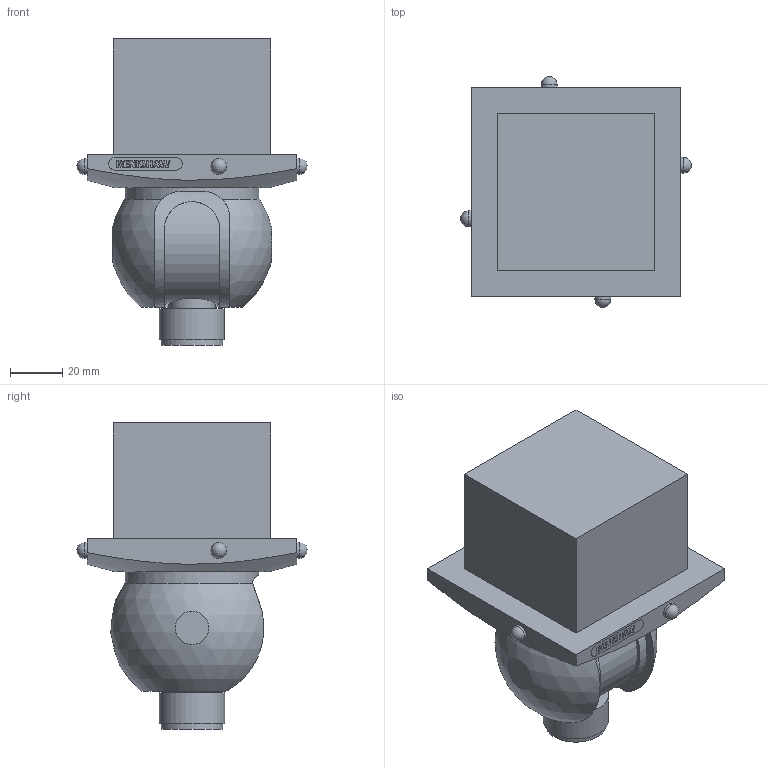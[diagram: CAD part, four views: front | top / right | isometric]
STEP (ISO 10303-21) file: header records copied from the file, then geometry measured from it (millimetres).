
FILE_DESCRIPTION(/* description */ (''),/* implementation_level */ '2;1');
FILE_NAME(/* name */ 'LA-1036-0001#-A.stp',/* time_stamp */ '2012-09-05T08:30:30+01:00',/* author */ (''),/* organization */ (''),/* preprocessor_version */ 'ST-DEVELOPER v11',/* originating_system */ 'SIEMENS PLM Software NX 7.5',/* authorisation */ '');
FILE_SCHEMA (('AUTOMOTIVE_DESIGN { 1 0 10303 214 1 1 1 1 }'));
Length unit declared in the file: millimetre
Products named in the file (1): rt13296Bv831
Bounding box: 87.96 x 87.96 x 116.69 mm (x, y, z)
Volume: 332564.3 mm3; surface area: 57134.3 mm2
Topology: 3 solids, 5 shells, 98 faces, 360 edges, 295 vertices
Faces by surface type: plane 58, cylinder 33, sphere 5, cone 2
Full cylindrical faces by diameter (mm): 6 x4, 8.15 x1, 16.94 x1, 17.8 x1, 23.5 x1, 24.95 x1, 45 x2, 50.95 x1, 52.85 x1
Entity records: 4733 total; most frequent: CARTESIAN_POINT 1220, ORIENTED_EDGE 646, DIRECTION 465, EDGE_CURVE 323, VERTEX_POINT 282, AXIS2_PLACEMENT_3D 166, EDGE_LOOP 147, LINE 133
